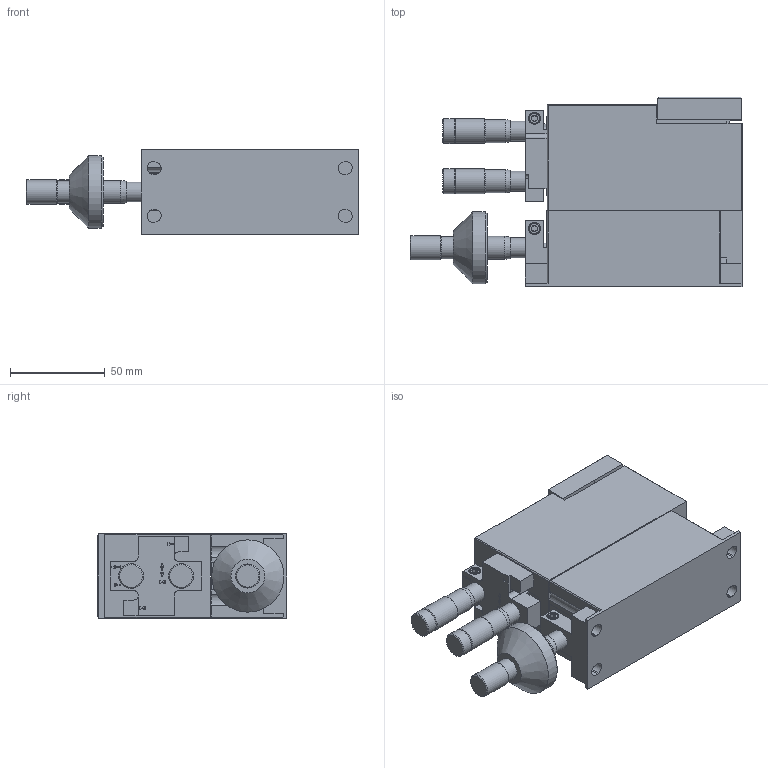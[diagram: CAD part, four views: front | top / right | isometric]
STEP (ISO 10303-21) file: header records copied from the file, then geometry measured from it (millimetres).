
FILE_DESCRIPTION((''),'1');
FILE_NAME('P1-L-H-I','2021-03-26T14:18:08',('JD'),('Luminos'),'Spatial Interop R20 SP1','Kubotek KeyCreator V9.0.3 (16864)',' ');
FILE_SCHEMA(('automotive_design'));
Length unit declared in the file: inch
Products named in the file (2): 1; 2
Bounding box: 175.18 x 100.08 x 44.45 mm (x, y, z)
Volume: 485378.7 mm3; surface area: 67764.1 mm2
Topology: 2 solids, 2 shells, 529 faces, 1221 edges, 772 vertices
Faces by surface type: plane 302, cylinder 117, cone 110
Full cylindrical faces by diameter (mm): 2.261 x25, 4.648 x8, 4.762 x6, 4.775 x2, 5 x3, 5.74 x3, 6.35 x3, 7.144 x1, 9.5 x2, 9.525 x1, 10.49 x3, 11.684 x1, 12.116 x3, 12.7 x1, 13.081 x4, 38.1 x1
Entity records: 25532 total; most frequent: CARTESIAN_POINT 2550, DIRECTION 2386, PRESENTATION_STYLE_ASSIGNMENT 2117, COLOUR_RGB 2117, ORIENTED_EDGE 2110, STYLED_ITEM 1586, CURVE_STYLE 1586, DRAUGHTING_PRE_DEFINED_CURVE_FONT 1586
